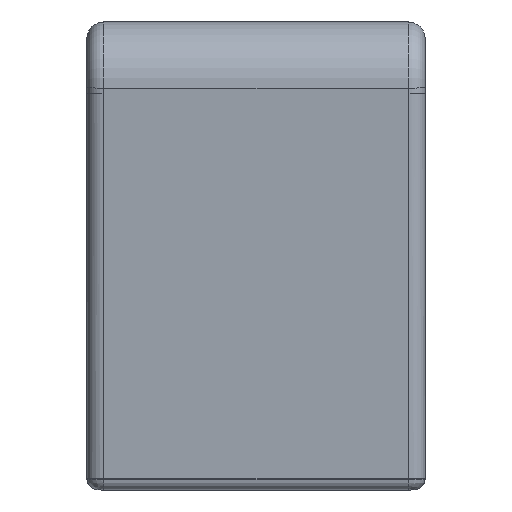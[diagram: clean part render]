
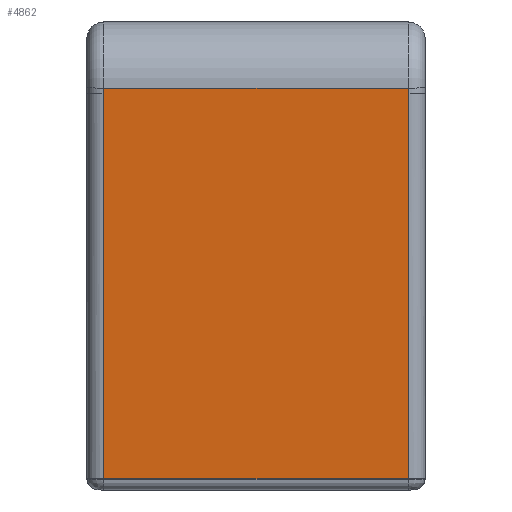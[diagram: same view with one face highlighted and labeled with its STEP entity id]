
A CAD part, left-side view. The second image highlights one B-rep face of the part: STEP entity #4862.
In plain terms, the highlighted planar face has unit normal (-0.998, 0, -0.067).
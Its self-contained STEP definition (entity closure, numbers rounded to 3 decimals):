
#6 = EDGE_LOOP ( 'NONE', ( #3013, #3011, #3009, #3007 ) ) ;
#328 = EDGE_CURVE ( 'NONE', #4945, #4948, #3769, .T. ) ;
#329 = EDGE_CURVE ( 'NONE', #4948, #4953, #3773, .T. ) ;
#330 = EDGE_CURVE ( 'NONE', #4953, #5125, #3777, .T. ) ;
#331 = EDGE_CURVE ( 'NONE', #4945, #5125, #3780, .T. ) ;
#658 = AXIS2_PLACEMENT_3D ( 'NONE', #2315, #2316, #2317 ) ;
#1104 = CARTESIAN_POINT ( 'NONE',  ( -392.388, 13.5, 28.632 ) ) ;
#1107 = CARTESIAN_POINT ( 'NONE',  ( -390.063, 13.5, -6.067 ) ) ;
#1112 = CARTESIAN_POINT ( 'NONE',  ( -390.063, -13.5, -6.067 ) ) ;
#1267 = CARTESIAN_POINT ( 'NONE',  ( -392.388, -13.5, 28.632 ) ) ;
#2314 = PLANE ( 'NONE',  #658 ) ;
#2315 = CARTESIAN_POINT ( 'NONE',  ( -390., 15., -7. ) ) ;
#2316 = DIRECTION ( 'NONE',  ( -0.998, 0., -0.067 ) ) ;
#2317 = DIRECTION ( 'NONE',  ( -0.067, 0., 0.998 ) ) ;
#3007 = ORIENTED_EDGE ( 'NONE', *, *, #331, .F. ) ;
#3009 = ORIENTED_EDGE ( 'NONE', *, *, #330, .T. ) ;
#3011 = ORIENTED_EDGE ( 'NONE', *, *, #329, .T. ) ;
#3013 = ORIENTED_EDGE ( 'NONE', *, *, #328, .T. ) ;
#3769 = LINE ( 'NONE', #4067, #3771 ) ;
#3771 = VECTOR ( 'NONE', #4066, 1000. ) ;
#3773 = LINE ( 'NONE', #4063, #3775 ) ;
#3775 = VECTOR ( 'NONE', #4062, 1000. ) ;
#3777 = LINE ( 'NONE', #4059, #3779 ) ;
#3779 = VECTOR ( 'NONE', #4058, 1000. ) ;
#3780 = LINE ( 'NONE', #4056, #3781 ) ;
#3781 = VECTOR ( 'NONE', #4054, 1000. ) ;
#4054 = DIRECTION ( 'NONE',  ( 0., -1., 0. ) ) ;
#4056 = CARTESIAN_POINT ( 'NONE',  ( -392.388, 15., 28.632 ) ) ;
#4058 = DIRECTION ( 'NONE',  ( -0.067, 0., 0.998 ) ) ;
#4059 = CARTESIAN_POINT ( 'NONE',  ( -392.388, -13.5, 28.632 ) ) ;
#4062 = DIRECTION ( 'NONE',  ( 0., -1., 0. ) ) ;
#4063 = CARTESIAN_POINT ( 'NONE',  ( -390.063, 15., -6.067 ) ) ;
#4066 = DIRECTION ( 'NONE',  ( 0.067, 0., -0.998 ) ) ;
#4067 = CARTESIAN_POINT ( 'NONE',  ( -390., 13.5, -7. ) ) ;
#4380 = FACE_OUTER_BOUND ( 'NONE', #6, .T. ) ;
#4862 = ADVANCED_FACE ( 'NONE', ( #4380 ), #2314, .T. ) ;
#4945 = VERTEX_POINT ( 'NONE', #1104 ) ;
#4948 = VERTEX_POINT ( 'NONE', #1107 ) ;
#4953 = VERTEX_POINT ( 'NONE', #1112 ) ;
#5125 = VERTEX_POINT ( 'NONE', #1267 ) ;
